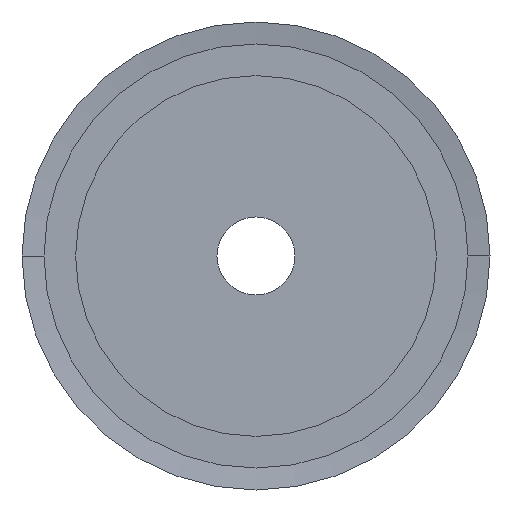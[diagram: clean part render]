
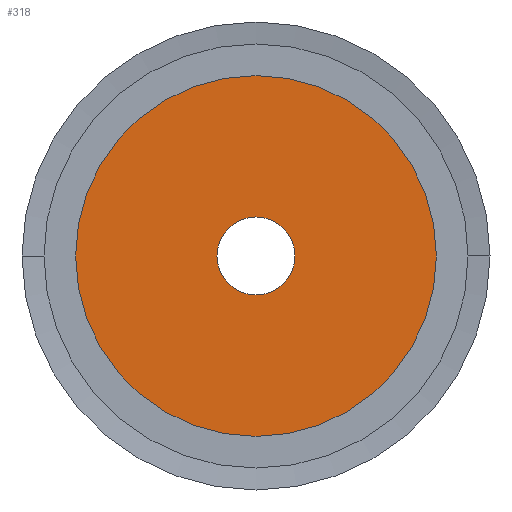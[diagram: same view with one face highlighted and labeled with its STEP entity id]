
A CAD part, left-side view. The second image highlights one B-rep face of the part: STEP entity #318.
In plain terms, the highlighted planar face has unit normal (-1, 0, 0).
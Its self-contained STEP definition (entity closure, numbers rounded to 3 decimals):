
#318 = ADVANCED_FACE( '', ( #812, #813 ), #814, .T. );
#812 = FACE_BOUND( '', #1307, .T. );
#813 = FACE_OUTER_BOUND( '', #1308, .T. );
#814 = PLANE( '', #1309 );
#1307 = EDGE_LOOP( '', ( #3441, #3442 ) );
#1308 = EDGE_LOOP( '', ( #3443, #3444 ) );
#1309 = AXIS2_PLACEMENT_3D( '', #3445, #3446, #3447 );
#3441 = ORIENTED_EDGE( '', *, *, #3491, .T. );
#3442 = ORIENTED_EDGE( '', *, *, #3487, .T. );
#3443 = ORIENTED_EDGE( '', *, *, #3451, .T. );
#3444 = ORIENTED_EDGE( '', *, *, #4150, .T. );
#3445 = CARTESIAN_POINT( '', ( 0., 9.25, 0. ) );
#3446 = DIRECTION( '', ( -1., 0., 0. ) );
#3447 = DIRECTION( '', ( 0., 1., 0. ) );
#3451 = EDGE_CURVE( '', #4152, #4156, #4158, .T. );
#3487 = EDGE_CURVE( '', #4224, #4221, #4225, .T. );
#3491 = EDGE_CURVE( '', #4221, #4224, #4230, .T. );
#4150 = EDGE_CURVE( '', #4156, #4152, #5319, .T. );
#4152 = VERTEX_POINT( '', #5321 );
#4156 = VERTEX_POINT( '', #5326 );
#4158 = CIRCLE( '', #5329, 18.5 );
#4221 = VERTEX_POINT( '', #5410 );
#4224 = VERTEX_POINT( '', #5414 );
#4225 = CIRCLE( '', #5415, 4. );
#4230 = CIRCLE( '', #5421, 4. );
#5319 = CIRCLE( '', #6887, 18.5 );
#5321 = CARTESIAN_POINT( '', ( 0., 18.5, 0. ) );
#5326 = CARTESIAN_POINT( '', ( 0., -18.5, 0. ) );
#5329 = AXIS2_PLACEMENT_3D( '', #6893, #6894, #6895 );
#5410 = CARTESIAN_POINT( '', ( 0., 4., 0. ) );
#5414 = CARTESIAN_POINT( '', ( 0., -4., 0. ) );
#5415 = AXIS2_PLACEMENT_3D( '', #6963, #6964, #6965 );
#5421 = AXIS2_PLACEMENT_3D( '', #6973, #6974, #6975 );
#6887 = AXIS2_PLACEMENT_3D( '', #8196, #8197, #8198 );
#6893 = CARTESIAN_POINT( '', ( 0., 0., 0. ) );
#6894 = DIRECTION( '', ( -1., 0., 0. ) );
#6895 = DIRECTION( '', ( 0., 1., 0. ) );
#6963 = CARTESIAN_POINT( '', ( 0., 0., 0. ) );
#6964 = DIRECTION( '', ( 1., 0., 0. ) );
#6965 = DIRECTION( '', ( 0., 1., 0. ) );
#6973 = CARTESIAN_POINT( '', ( 0., 0., 0. ) );
#6974 = DIRECTION( '', ( 1., 0., 0. ) );
#6975 = DIRECTION( '', ( 0., 1., 0. ) );
#8196 = CARTESIAN_POINT( '', ( 0., 0., 0. ) );
#8197 = DIRECTION( '', ( -1., 0., 0. ) );
#8198 = DIRECTION( '', ( 0., 1., 0. ) );
